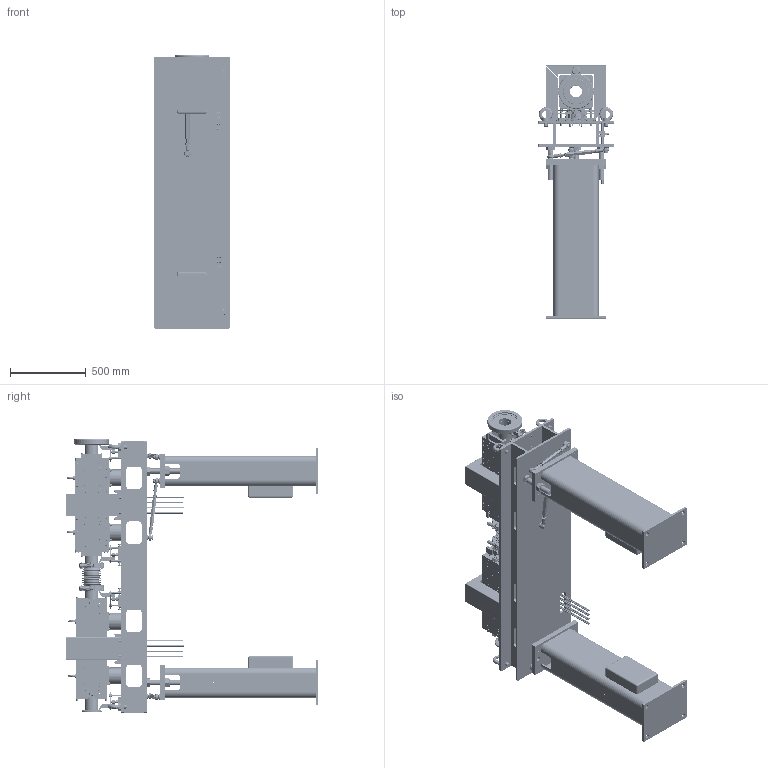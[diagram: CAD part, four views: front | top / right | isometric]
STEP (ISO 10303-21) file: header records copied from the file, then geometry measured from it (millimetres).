
FILE_DESCRIPTION(/* description */ ('Girder'),/* implementation_level */ '2;1');
FILE_NAME(/* name */ 'C:\Users\aana\Desktop\AA Current project\8 ESS Raster magnet\7103033532.stp',/* time_stamp */ '2016-12-21T17:39:19+01:00',/* author */ ('AANA'),/* organization */ (''),/* preprocessor_version */ 'ST-DEVELOPER v16.1',/* originating_system */ 'Autodesk Inventor 2016',/* authorisation */ '0 mm^3');
FILE_SCHEMA (('AUTOMOTIVE_DESIGN { 1 0 10303 214 3 1 1 }'));
Products named in the file (97): 7103033526; 7103033528; 5200802918; 5300800049; Hex rod; Threaded rod m12; Threaded rod m12 LHipt; 5300800134; 7103002679-new; 5200801621; Brd.Klee-03001016150-GI16; Brd.Klee-03001016150-GI16-02; Rod-end; Rod-end_1; 7103033529; Rod-end_2; Rod-end_3; 7103033529_1; Rod-end_4; Rod-end_5; 7103033529_2; 5200803999; 7103033525; 7103033505; 7103033506; 7103033516; 7103033517; 7103033507; 7103033508; 7103033514; 7103033515; 7103033518; 7103033519; 7103033520; 7103033797; 7103033798; 7103033521; 9000015533; 5400800036; 7103033824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
Assembly tree (767 placements, depth 5):
  7103033532
    7103033525
      7103033526
      7103033528  x2
      5200802918  x3
      5300800049  x3
      7103033529
        Hex rod
        Threaded rod m12
        Threaded rod m12 LHipt
        5300800134  x4
        7103002679-new  x2
        5200801621  x2
        Rod-end
          Brd.Klee-03001016150-GI16
          Brd.Klee-03001016150-GI16-02
        Rod-end_1
          Brd.Klee-03001016150-GI16
          Brd.Klee-03001016150-GI16-02
      7103033529_1
        Hex rod
        Threaded rod m12
        Threaded rod m12 LHipt
        5300800134  x4
        7103002679-new  x2
        5200801621  x2
        Rod-end_2
          Brd.Klee-03001016150-GI16
          Brd.Klee-03001016150-GI16-02
        Rod-end_3
          Brd.Klee-03001016150-GI16
          Brd.Klee-03001016150-GI16-02
      7103033529_2
        Hex rod
        Threaded rod m12
        Threaded rod m12 LHipt
        5300800134  x4
        7103002679-new  x2
        5200801621  x2
        Rod-end_4
          Brd.Klee-03001016150-GI16
          Brd.Klee-03001016150-GI16-02
        Rod-end_5
          Brd.Klee-03001016150-GI16
          Brd.Klee-03001016150-GI16-02
      5200803999  x4
    7103033504  x4
      7103033505
      7103033506
      7103033516
      7103033517
      7103033521
        7103033507
        7103033508
        7103033514
        7103033515  x2
        7103033518  x2
        7103033519
        7103033520  x4
        7103033797  x9
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Bounding box: 500 x 1672 x 1811.47 mm (x, y, z)
Volume: 116800324.1 mm3; surface area: 20800136.4 mm2
Topology: 1358 solids, 1362 shells, 21003 faces, 49205 edges, 31630 vertices
Faces by surface type: plane 11179, cylinder 5498, cone 2251, bspline 1248, torus 669, sphere 158
Full cylindrical faces by diameter (mm): 2.85 x96, 3.242 x160, 4 x80, 4.134 x64, 4.3 x72, 4.917 x48, 5 x40, 5.3 x32, 5.333 x6, 6 x104, 6.4 x40, 6.6 x48, 6.647 x144, 7 x72, 8 x272, 8.376 x91, 8.4 x72, 8.5 x32, 9 x256, 9.5 x32, 10 x116, 10.106 x28, 10.5 x56, 10.647 x21, 10.8 x4, 11 x32, 11.63 x16, 12 x86, 12.15 x32, 13 x80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
Entity records: 223765 total; most frequent: CARTESIAN_POINT 128276, DIRECTION 19108, ORIENTED_EDGE 17228, EDGE_CURVE 8610, AXIS2_PLACEMENT_3D 7471, VERTEX_POINT 5859, EDGE_LOOP 5047, LINE 4166
